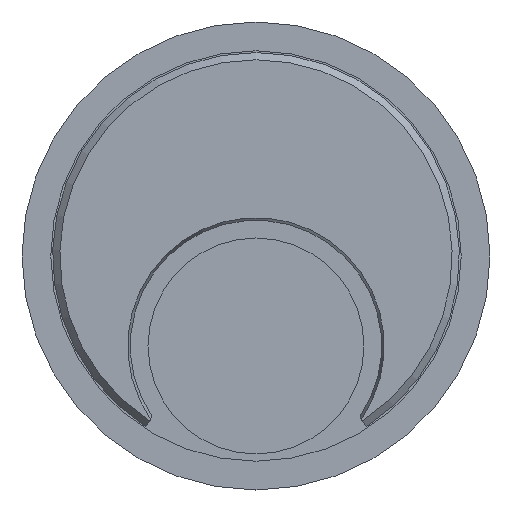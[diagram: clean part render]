
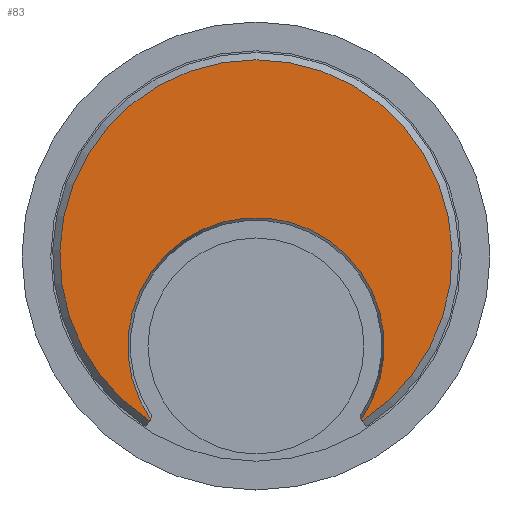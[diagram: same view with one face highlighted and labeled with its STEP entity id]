
A CAD part, left-side view. The second image highlights one B-rep face of the part: STEP entity #83.
In plain terms, the highlighted planar face has unit normal (-1, 0, 0).
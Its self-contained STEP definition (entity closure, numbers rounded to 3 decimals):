
#83 = ADVANCED_FACE( '', ( #112 ), #113, .F. );
#112 = FACE_OUTER_BOUND( '', #155, .T. );
#113 = PLANE( '', #156 );
#155 = EDGE_LOOP( '', ( #233, #234, #235, #236 ) );
#156 = AXIS2_PLACEMENT_3D( '', #237, #238, #239 );
#233 = ORIENTED_EDGE( '', *, *, #303, .T. );
#234 = ORIENTED_EDGE( '', *, *, #298, .T. );
#235 = ORIENTED_EDGE( '', *, *, #304, .T. );
#236 = ORIENTED_EDGE( '', *, *, #302, .T. );
#237 = CARTESIAN_POINT( '', ( -40., -2.825, 0. ) );
#238 = DIRECTION( '', ( 1., 0., 0. ) );
#239 = DIRECTION( '', ( 0., 1., 0. ) );
#298 = EDGE_CURVE( '', #338, #336, #339, .T. );
#302 = EDGE_CURVE( '', #341, #343, #345, .F. );
#303 = EDGE_CURVE( '', #343, #338, #346, .T. );
#304 = EDGE_CURVE( '', #336, #341, #347, .T. );
#336 = VERTEX_POINT( '', #395 );
#338 = VERTEX_POINT( '', #400 );
#339 = CIRCLE( '', #401, 1.782 );
#341 = VERTEX_POINT( '', #406 );
#343 = VERTEX_POINT( '', #411 );
#345 = CIRCLE( '', #416, 2.725 );
#346 = LINE( '', #417, #418 );
#347 = LINE( '', #419, #420 );
#395 = CARTESIAN_POINT( '', ( -40., -1.463, -2.268 ) );
#400 = CARTESIAN_POINT( '', ( -40., 1.463, -2.268 ) );
#401 = AXIS2_PLACEMENT_3D( '', #456, #457, #458 );
#406 = CARTESIAN_POINT( '', ( -40., -1.478, -2.29 ) );
#411 = CARTESIAN_POINT( '', ( -40., 1.478, -2.29 ) );
#416 = AXIS2_PLACEMENT_3D( '', #459, #460, #461 );
#417 = CARTESIAN_POINT( '', ( -40., 1.45, -2.25 ) );
#418 = VECTOR( '', #462, 1000. );
#419 = CARTESIAN_POINT( '', ( -40., -1.45, -2.25 ) );
#420 = VECTOR( '', #463, 1000. );
#456 = CARTESIAN_POINT( '', ( -40., 0., -1.25 ) );
#457 = DIRECTION( '', ( 1., 0., 0. ) );
#458 = DIRECTION( '', ( 0., 1., 0. ) );
#459 = CARTESIAN_POINT( '', ( -40., 0., 0. ) );
#460 = DIRECTION( '', ( 1., 0., 0. ) );
#461 = DIRECTION( '', ( 0., 1., 0. ) );
#462 = DIRECTION( '', ( 0., -0.574, 0.819 ) );
#463 = DIRECTION( '', ( 0., -0.574, -0.819 ) );
